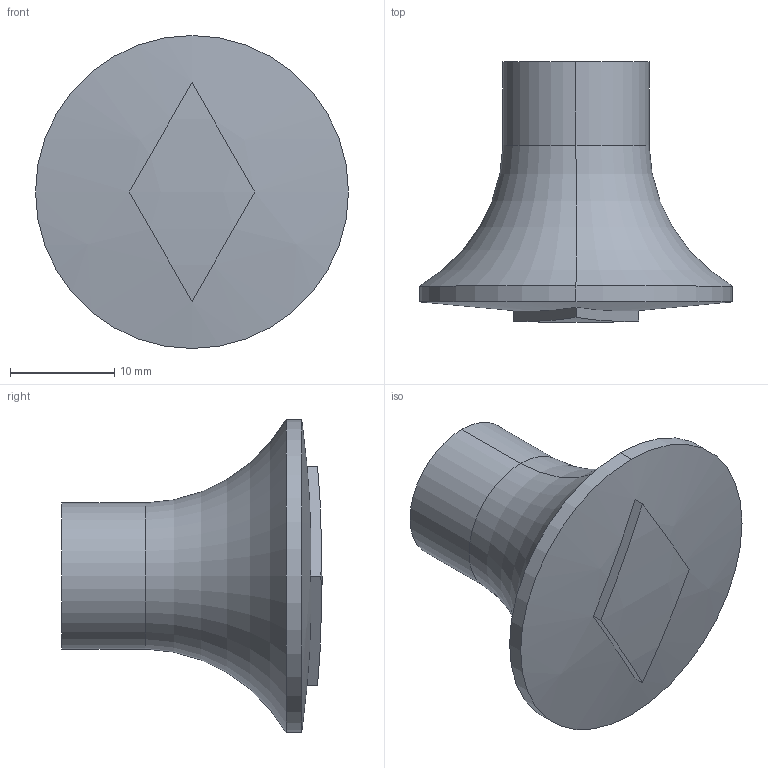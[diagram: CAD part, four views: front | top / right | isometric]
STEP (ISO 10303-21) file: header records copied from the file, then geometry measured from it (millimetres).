
FILE_DESCRIPTION( ( '' ), '1' );
FILE_NAME( 'C:/Documents and Settings/Nikhil/Desktop/Nik/Done/115287.stp', '2013-10-24T04:56:09', ( '' ), ( '' ), ' ', ' ', ' ' );
FILE_SCHEMA( ( 'automotive_design' ) );
Length unit declared in the file: millimetre
Products named in the file (1): 1
Bounding box: 30 x 24.96 x 30 mm (x, y, z)
Volume: 6619.9 mm3; surface area: 2518.7 mm2
Topology: 1 solids, 1 shells, 16 faces, 32 edges, 20 vertices
Faces by surface type: cylinder 6, plane 6, torus 2, sphere 2
Entity records: 838 total; most frequent: DIRECTION 88, STYLED_ITEM 69, PRESENTATION_STYLE_ASSIGNMENT 69, CARTESIAN_POINT 69, COLOUR_RGB 69, ORIENTED_EDGE 64, AXIS2_PLACEMENT_3D 39, EDGE_CURVE 32
